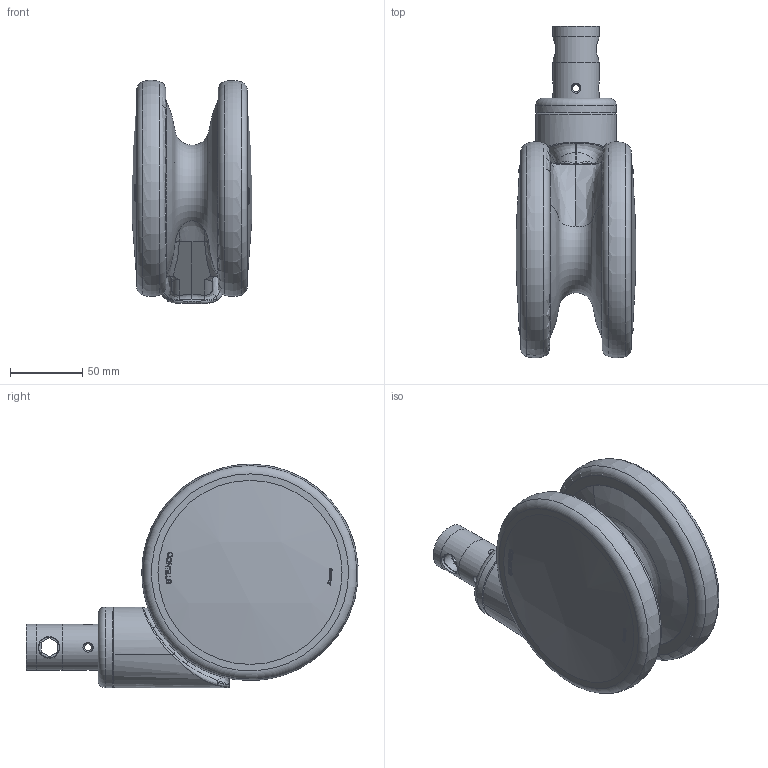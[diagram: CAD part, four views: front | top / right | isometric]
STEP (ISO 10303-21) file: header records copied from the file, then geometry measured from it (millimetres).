
FILE_DESCRIPTION(/* description */ (''),/* implementation_level */ '2;1');
FILE_NAME(/* name */ 'D:\Temp\TP-STEP_files\_inventor_\new_imports\4.SWR0.DQ20.prt.ipt.step',/* time_stamp */ '2020-11-27T10:32:47+01:00',/* author */ ('alfredS'),/* organization */ (''),/* preprocessor_version */ 'ST-DEVELOPER v18.1',/* originating_system */ 'Autodesk Inventor 2021',/* authorisation */ '');
FILE_SCHEMA (('AUTOMOTIVE_DESIGN { 1 0 10303 214 3 1 1 }'));
Length unit declared in the file: millimetre
Products named in the file (1): 4.SWR0.DQ20.prt
Bounding box: 83.08 x 230.15 x 155 mm (x, y, z)
Volume: 1189889.9 mm3; surface area: 102697.6 mm2
Topology: 2 solids, 2 shells, 519 faces, 1410 edges, 927 vertices
Faces by surface type: bspline 272, plane 168, sphere 36, cylinder 24, torus 14, cone 5
Full cylindrical faces by diameter (mm): 5 x4, 14.2 x2, 15 x2, 31.85 x1, 31.95 x2, 56 x1
Entity records: 33271 total; most frequent: CARTESIAN_POINT 21066, ORIENTED_EDGE 2804, DIRECTION 1812, EDGE_CURVE 1402, VERTEX_POINT 927, AXIS2_PLACEMENT_3D 698, EDGE_LOOP 568, B_SPLINE_CURVE_WITH_KNOTS 534
